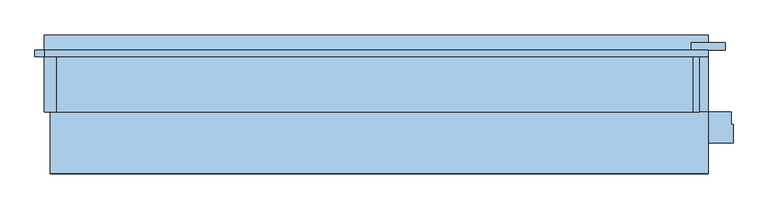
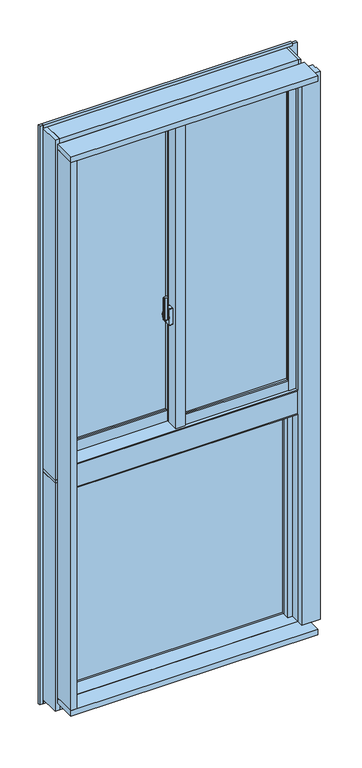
"""IFC4 building model written with IfcOpenShell, lengths in millimetres: window geometry, FNSⅡ100R_非防火_ALC枠_段窓_分解無目 : FIX/框ドア."""

import ifcopenshell
import ifcopenshell.guid

model = None  # the IFC model being written
_history = None  # IfcOwnerHistory: only IFC2X3 demands one
_inside = {}  # id of a spatial element -> (the spatial element, [elements in it])
_under = {}  # id of a project, library or spatial element -> (it, [spatial elements below it])
_declared = {}  # id of a project -> (the project, [libraries it declares])
_typed = {}  # id of a type object -> (the type object, [elements of that type])
_made_of = {}  # id of a material, layer set ... -> (it, [elements and type objects made of it])


def new_model(schema):
    """Start an empty IFC model of exactly this schema.

    Asked for "IFC4X3", IfcOpenShell would pick the latest addendum, in which some entities
    have other attributes; the version numbers below select the first issue.
    IFC2X3 requires an IfcOwnerHistory on every rooted entity: one is made here for all.
    """
    global model, _history
    if schema == "IFC4X3":
        model = ifcopenshell.file(schema_version=(4, 3, 0, 0))
    else:
        model = ifcopenshell.file(schema=schema)
    _inside.clear()
    _under.clear()
    _declared.clear()
    _typed.clear()
    _made_of.clear()
    _history = None
    if model.schema == "IFC2X3":
        org = make("IfcOrganization", Name="unknown")
        user = make(
            "IfcPersonAndOrganization",
            ThePerson=make("IfcPerson", FamilyName="unknown"),
            TheOrganization=org,
        )
        app = make(
            "IfcApplication",
            ApplicationDeveloper=org,
            Version="unknown",
            ApplicationFullName="unknown",
            ApplicationIdentifier="unknown",
        )
        _history = make(
            "IfcOwnerHistory",
            OwningUser=user,
            OwningApplication=app,
            ChangeAction="ADDED",
            CreationDate=0,
        )
    return model


def make(cls, **values):
    """One entity of the class cls with the attributes given. An attribute that is None is left unset."""
    return model.create_entity(
        cls, **{name: value for name, value in values.items() if value is not None}
    )


def rooted(cls, **values):
    """An entity with a GlobalId (a new one), such as an element, a storey or a relation."""
    return make(cls, GlobalId=ifcopenshell.guid.new(), OwnerHistory=_history, **values)


def si_unit(unit_type, name, prefix=None):
    """IfcSIUnit, for example si_unit("LENGTHUNIT", "METRE", prefix="MILLI")."""
    return make("IfcSIUnit", UnitType=unit_type, Prefix=prefix, Name=name)


def assignment(units):
    """IfcUnitAssignment: the units of a project."""
    return None if units is None else make("IfcUnitAssignment", Units=units)


def point(xyz):
    """IfcCartesianPoint."""
    return None if xyz is None else make("IfcCartesianPoint", Coordinates=xyz)


def direction(xyz):
    """IfcDirection."""
    return None if xyz is None else make("IfcDirection", DirectionRatios=xyz)


def frame(location, z_axis=None, x_axis=None):
    """IfcAxis2Placement3D, a coordinate frame: its origin and axes. An axis left out is left unset."""
    return make(
        "IfcAxis2Placement3D",
        Location=point(location),
        Axis=direction(z_axis),
        RefDirection=direction(x_axis),
    )


def frame_2d(location, x_axis=None):
    """IfcAxis2Placement2D, a coordinate frame in the plane: its origin and x axis."""
    return make(
        "IfcAxis2Placement2D", Location=point(location), RefDirection=direction(x_axis)
    )


def origin():
    """The frame at (0, 0, 0) with its axes left unset."""
    return frame((0.0, 0.0, 0.0))


def place(relative_to, where):
    """IfcLocalPlacement: puts the frame where relative to a parent placement (None: the world)."""
    return make(
        "IfcLocalPlacement", PlacementRelTo=relative_to, RelativePlacement=where
    )


def context(
    kind, dimensions, precision=None, world=None, true_north=None, identifier=None
):
    """IfcGeometricRepresentationContext, for example the 3D "Model" context."""
    return make(
        "IfcGeometricRepresentationContext",
        ContextIdentifier=identifier,
        ContextType=kind,
        CoordinateSpaceDimension=dimensions,
        Precision=precision,
        WorldCoordinateSystem=world,
        TrueNorth=true_north,
    )


def project(units=None, contexts=None):
    """IfcProject with its units and contexts."""
    return rooted(
        "IfcProject",
        Name="project",
        RepresentationContexts=contexts,
        UnitsInContext=assignment(units),
    )


def spatial(cls, under=None, at=None, **own):
    """A site, building, storey or space (cls), placed at a placement, below another one or the project."""
    s = rooted(cls, ObjectPlacement=at, **own)
    if under is not None:
        _under.setdefault(under.id(), (under, []))[1].append(s)
    return s


def polyline(points):
    """IfcPolyline through the points."""
    return make("IfcPolyline", Points=[point(p) for p in points])


def circle_curve(where, radius):
    """IfcCircle in the frame where."""
    return make("IfcCircle", Position=where, Radius=radius)


def trimmed(basis, trim1, trim2, sense, master):
    """IfcTrimmedCurve: the piece of a basis curve between two trims."""
    return make(
        "IfcTrimmedCurve",
        BasisCurve=basis,
        Trim1=trim1,
        Trim2=trim2,
        SenseAgreement=sense,
        MasterRepresentation=master,
    )


def segment(curve, same_sense, transition):
    """IfcCompositeCurveSegment."""
    return make(
        "IfcCompositeCurveSegment",
        Transition=transition,
        SameSense=same_sense,
        ParentCurve=curve,
    )


def composite_curve(segments, self_intersect=None):
    """IfcCompositeCurve: segments joined end to end."""
    return make("IfcCompositeCurve", Segments=segments, SelfIntersect=self_intersect)


def outline(outer, holes=None, kind="AREA"):
    """IfcArbitraryClosedProfileDef: a profile drawn as a closed curve; with holes, ...WithVoids."""
    if holes is None:
        return make("IfcArbitraryClosedProfileDef", ProfileType=kind, OuterCurve=outer)
    return make(
        "IfcArbitraryProfileDefWithVoids",
        ProfileType=kind,
        OuterCurve=outer,
        InnerCurves=holes,
    )


def extrude(swept, where, along, depth):
    """IfcExtrudedAreaSolid: the profile swept, set in the frame where, extruded along a direction by depth."""
    return make(
        "IfcExtrudedAreaSolid",
        SweptArea=swept,
        Position=where,
        ExtrudedDirection=direction(along),
        Depth=depth,
    )


def faces_of(points, faces, orient=None, outer=None):
    """IfcFace entities. A face is a list of loops; a loop is a list of indices into points, from 0.

    orient and outer hold one flag for each loop. By default every Orientation is true, the
    first loop of a face is its IfcFaceOuterBound and the others are IfcFaceBound.
    """
    made = []
    for i, loops in enumerate(faces):
        bounds = []
        for j, loop in enumerate(loops):
            is_outer = j == 0 if outer is None else outer[i][j]
            bounds.append(
                make(
                    "IfcFaceOuterBound" if is_outer else "IfcFaceBound",
                    Bound=make("IfcPolyLoop", Polygon=[points[k] for k in loop]),
                    Orientation=True if orient is None else orient[i][j],
                )
            )
        made.append(make("IfcFace", Bounds=bounds))
    return made


def faceted_brep(points, faces, orient=None, outer=None, voids=None):
    """IfcFacetedBrep: a solid bounded by flat faces; with voids (closed shells), ...WithVoids."""
    shared = [point(p) for p in points]
    hull = make("IfcClosedShell", CfsFaces=faces_of(shared, faces, orient, outer))
    if voids is None:
        return make("IfcFacetedBrep", Outer=hull)
    return make(
        "IfcFacetedBrepWithVoids",
        Outer=hull,
        Voids=[
            make(cls, CfsFaces=faces_of(shared, fs, o, b)) for cls, fs, o, b in voids
        ],
    )


def shape(context_of_items, identifier, shape_type, items):
    """IfcShapeRepresentation: the items that make up one representation, for example the "Body"."""
    return make(
        "IfcShapeRepresentation",
        ContextOfItems=context_of_items,
        RepresentationIdentifier=identifier,
        RepresentationType=shape_type,
        Items=items,
    )


def source(mapping_origin, context_of_items, identifier, shape_type, items):
    """IfcRepresentationMap: a shape defined once, which mapped items show again and again."""
    return make(
        "IfcRepresentationMap",
        MappingOrigin=mapping_origin,
        MappedRepresentation=shape(context_of_items, identifier, shape_type, items),
    )


def transform(
    local_origin,
    x_axis=None,
    y_axis=None,
    z_axis=None,
    scale=None,
    scale2=None,
    scale3=None,
    uniform=True,
):
    """IfcCartesianTransformationOperator3D, or its non-uniform kind. x_axis, y_axis, z_axis: its Axis1, 2, 3."""
    if uniform:
        return make(
            "IfcCartesianTransformationOperator3D",
            Axis1=direction(x_axis),
            Axis2=direction(y_axis),
            LocalOrigin=point(local_origin),
            Scale=scale,
            Axis3=direction(z_axis),
        )
    return make(
        "IfcCartesianTransformationOperator3DnonUniform",
        Axis1=direction(x_axis),
        Axis2=direction(y_axis),
        LocalOrigin=point(local_origin),
        Scale=scale,
        Axis3=direction(z_axis),
        Scale2=scale2,
        Scale3=scale3,
    )


def mapped(mapping_source, mapping_target):
    """IfcMappedItem: shows the shape of a source again, moved by a transform."""
    return make(
        "IfcMappedItem", MappingSource=mapping_source, MappingTarget=mapping_target
    )


def made_of(thing, what):
    """Note that an element or type object is made of a material, layer set ...; save() writes the relation."""
    if what is not None:
        _made_of.setdefault(what.id(), (what, []))[1].append(thing)
    return thing


def element(
    cls,
    number,
    at=None,
    inside=None,
    cuts=None,
    type_object=None,
    material=None,
    context=None,
    identifier="Body",
    shape_type=None,
    held_by="IfcProductDefinitionShape",
    body=None,
    shapes=None,
    **own,
):
    """One element of the class cls, such as IfcWall. Its Tag is "e" and its number.

    at: its placement. inside: the storey or other place that contains it. cuts: it is an
    opening in that element (IfcRelVoidsElement). A single representation is given by context,
    identifier, shape_type and body (its items); several are given by shapes. held_by: the class
    of the entity that holds the representations. save() writes the other relations.
    """
    e = rooted(cls, Tag="e%d" % number, ObjectPlacement=at, **own)
    if body is not None:
        shapes = [shape(context, identifier, shape_type, body)]
    if shapes is not None:
        e.Representation = make(held_by, Representations=shapes)
    if inside is not None:
        _inside.setdefault(inside.id(), (inside, []))[1].append(e)
    if cuts is not None:
        rooted(
            "IfcRelVoidsElement", RelatingBuildingElement=cuts, RelatedOpeningElement=e
        )
    if type_object is not None:
        _typed.setdefault(type_object.id(), (type_object, []))[1].append(e)
    return made_of(e, material)


def aggregate(whole, parts):
    """IfcRelAggregates: a whole, such as a stair, and the parts it consists of."""
    return rooted("IfcRelAggregates", RelatingObject=whole, RelatedObjects=parts)


def save(model, path):
    """Write the relations noted so far, then the file.

    IfcRelAggregates (storeys below a building ...), IfcRelContainedInSpatialStructure (elements
    in a storey), IfcRelDefinesByType, IfcRelAssociatesMaterial and IfcRelDeclares: one each for
    every whole, place, type object, material and project.
    """
    for whole, parts in _under.values():
        aggregate(whole, parts)
    for where, things in _inside.values():
        rooted(
            "IfcRelContainedInSpatialStructure",
            RelatedElements=things,
            RelatingStructure=where,
        )
    for kind, things in _typed.values():
        rooted("IfcRelDefinesByType", RelatedObjects=things, RelatingType=kind)
    for what, things in _made_of.values():
        rooted("IfcRelAssociatesMaterial", RelatedObjects=things, RelatingMaterial=what)
    for by, libraries in _declared.values():
        rooted("IfcRelDeclares", RelatingContext=by, RelatedDefinitions=libraries)
    model.write(path)


def plane_surface(at):
    """IfcPlane: the flat surface through the origin of the frame at, square to its z axis."""
    return make("IfcPlane", Position=at)


def cylinder_surface(at, radius):
    """IfcCylindricalSurface: all points at the distance radius from the z axis of the frame at."""
    return make("IfcCylindricalSurface", Position=at, Radius=radius)


def revolved_surface(curve, axis_point, axis_direction):
    """IfcSurfaceOfRevolution: the curve turned about the line through axis_point along axis_direction."""
    return make(
        "IfcSurfaceOfRevolution",
        SweptCurve=make("IfcArbitraryOpenProfileDef", ProfileType="CURVE", Curve=curve),
        AxisPosition=make("IfcAxis1Placement", Location=point(axis_point), Axis=direction(axis_direction)),
    )


def advanced_brep(points, edges, surfaces, faces):
    """IfcAdvancedBrep: a solid bounded by faces that lie on surfaces and meet in shared edges.

    An edge is (start, end): straight between two places in points (the first is 0);
    or (start, end, curve); or (start, end, curve, False) where it runs against its curve.
    A face is (place in surfaces, loops), or (place, loops, False) where it looks against
    its surface's normal. A loop lists edges by number (the first is 1), with a minus sign
    where the edge is run from its end to its start. The first loop is the outer one.
    """
    corners = [point(p) for p in points]
    vertices = [make("IfcVertexPoint", VertexGeometry=c) for c in corners]
    made = []
    for start, end, *more in edges:
        made.append(
            make(
                "IfcEdgeCurve",
                EdgeStart=vertices[start],
                EdgeEnd=vertices[end],
                EdgeGeometry=more[0] if more else make("IfcPolyline", Points=[corners[start], corners[end]]),
                SameSense=more[1] if len(more) > 1 else True,
            )
        )
    hull = []
    for where, loops, *sense in faces:
        bounds = []
        for j, loop in enumerate(loops):
            ring = [make("IfcOrientedEdge", EdgeElement=made[abs(k) - 1], Orientation=k > 0) for k in loop]
            bounds.append(
                make(
                    "IfcFaceOuterBound" if j == 0 else "IfcFaceBound",
                    Bound=make("IfcEdgeLoop", EdgeList=ring),
                    Orientation=True,
                )
            )
        hull.append(make("IfcAdvancedFace", Bounds=bounds, FaceSurface=surfaces[where], SameSense=sense[0] if sense else True))
    return make("IfcAdvancedBrep", Outer=make("IfcClosedShell", CfsFaces=hull))


def window_8ae274f2(model_context):
    return source(origin(), model_context, "Body", "SolidModel", [
        extrude(outline(composite_curve([segment(polyline([(-39.0, 14.6), (-39.0, 6.4)]), True, "CONTINUOUS"), segment(trimmed(circle_curve(frame_2d((-41.0, 6.4)), 2.0), [point((-39.0, 6.4))], [point((-41.3606557, 4.4327869))], False, "CARTESIAN"), True, "CONTINUOUS"), segment(polyline([(-41.3606557, 4.4327869), (-52.3606557, 6.4494536)]), True, "CONTINUOUS"), segment(trimmed(circle_curve(frame_2d((-52.0, 8.4166667)), 2.0), [point((-52.3606557, 6.4494536))], [point((-54.0, 8.4166667))], False, "CARTESIAN"), True, "CONTINUOUS"), segment(polyline([(-54.0, 8.4166667), (-54.0, 12.5833333)]), True, "CONTINUOUS"), segment(trimmed(circle_curve(frame_2d((-52.0, 12.5833333)), 2.0), [point((-54.0, 12.5833333))], [point((-52.3606557, 14.5505464))], False, "CARTESIAN"), True, "CONTINUOUS"), segment(polyline([(-52.3606557, 14.5505464), (-41.3606557, 16.5672131)]), True, "CONTINUOUS"), segment(trimmed(circle_curve(frame_2d((-41.0, 14.6)), 2.0), [point((-41.3606557, 16.5672131))], [point((-39.0, 14.6))], False, "CARTESIAN"), True, "CONTINUOUS")], self_intersect=False)), frame((0.0, 0.0, 2445.0), z_axis=(0.0, 0.0, 1.0), x_axis=(1.0, 0.0, 0.0)), (0.0, 0.0, 1.0), 100.0),
        advanced_brep(
        [(-37.5, 18.8234285, 2476.7333311), (-45.5, 18.8234285, 2476.7333311), (-45.5, 18.4351999, 2475.2844424), (-39.0, 18.4351999, 2475.2844424), (-39.0, 16.6234666, 2468.5229616), (-37.5, 16.6234666, 2468.5229616), (-39.0, 16.6466117, 2434.3190372), (-45.5, 16.6466117, 2434.3190372), (-45.5, 16.907084, 2432.8418256), (-37.5, 16.907084, 2432.8418256), (-37.5, 15.4310745, 2441.2126915), (-39.0, 15.4310745, 2441.2126915)],
        [
            (0, 1),
            (1, 2),
            (2, 3),
            (3, 4),
            (4, 5),
            (5, 0),
            (6, 7),
            (7, 8),
            (8, 9),
            (9, 10),
            (10, 11),
            (11, 6),
            (0, 9, circle_curve(frame((-37.5, 13.0, 2455.0), z_axis=(-1.0, 0.0, 0.0), x_axis=(0.0, 0.25881904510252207, 0.965925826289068)), 22.5)),
            (8, 1, circle_curve(frame((-45.5, 13.0, 2455.0), z_axis=(1.0, 0.0, 0.0), x_axis=(0.0, 0.25881904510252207, 0.965925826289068)), 22.5)),
            (7, 2, circle_curve(frame((-45.5, 13.0, 2455.0), z_axis=(1.0, 0.0, 0.0), x_axis=(0.0, 0.25881904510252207, 0.965925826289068)), 21.0)),
            (6, 3, circle_curve(frame((-39.0, 13.0, 2455.0), z_axis=(1.0, 0.0, 0.0), x_axis=(0.0, 0.25881904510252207, 0.965925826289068)), 21.0)),
            (11, 4, circle_curve(frame((-39.0, 13.0, 2455.0), z_axis=(-1.0, 0.0, 0.0), x_axis=(0.0, -1.0, 0.0)), 14.0)),
            (5, 10, circle_curve(frame((-37.5, 13.0, 2455.0), z_axis=(1.0, 0.0, 0.0), x_axis=(0.0, -1.0, 0.0)), 14.0)),
        ],
        [
            plane_surface(frame((-43.5470497, 13.0, 2455.0), z_axis=(0.0, -0.965925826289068, 0.25881904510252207), x_axis=(0.0, 0.25881904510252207, 0.965925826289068))),
            plane_surface(frame((-43.5470497, 13.0, 2455.0), z_axis=(0.0, -0.9848077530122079, -0.17364817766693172), x_axis=(0.0, 0.17364817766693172, -0.9848077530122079))),
            cylinder_surface(frame((-43.5470497, 13.0, 2455.0), z_axis=(-1.0, 0.0, 0.0), x_axis=(0.0, 0.25881904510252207, 0.965925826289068)), 22.5),
            plane_surface(frame((-45.5, 13.0, 2455.0), z_axis=(-1.0, 0.0, 0.0), x_axis=(0.0, 0.25881904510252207, 0.965925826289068))),
            revolved_surface(polyline([(-45.5, 18.435199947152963, 2475.2844423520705), (-39.0, 18.435199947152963, 2475.2844423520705)]), (-43.5470497, 13.0, 2455.0), (-1.0, 0.0, 0.0)),
            plane_surface(frame((-39.0, 13.0, 2455.0), z_axis=(-1.0, 0.0, 0.0), x_axis=(0.0, 0.25881904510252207, 0.965925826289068))),
            plane_surface(frame((-37.5, 13.0, 2455.0), z_axis=(1.0, 0.0, 0.0), x_axis=(0.0, 0.25881904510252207, 0.965925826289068))),
            cylinder_surface(frame((-37.5, 13.0, 2455.0), z_axis=(-1.0, 0.0, 0.0), x_axis=(0.0, -1.0, 0.0)), 14.0),
        ],
        [
            (0, [[1, 2, 3, 4, 5, 6]]),
            (1, [[7, 8, 9, 10, 11, 12]]),
            (2, [[-1, 13, -9, 14]]),
            (3, [[-2, -14, -8, 15]]),
            (4, [[-3, -15, -7, 16]]),
            (5, [[-16, -12, 17, -4]]),
            (6, [[-13, -6, 18, -10]]),
            (7, [[-17, -11, -18, -5]]),
        ],
    ),
        extrude(outline(composite_curve([segment(trimmed(circle_curve(frame_2d((13.0, 2455.0)), 11.5), [point((24.5, 2455.0))], [point((1.5, 2455.0))], False, "CARTESIAN"), True, "CONTINUOUS"), segment(trimmed(circle_curve(frame_2d((13.0, 2455.0)), 11.5), [point((1.5, 2455.0))], [point((24.5, 2455.0))], False, "CARTESIAN"), True, "CONTINUOUS")], self_intersect=False)), frame((-37.5, 0.0, 0.0), z_axis=(1.0, 0.0, 0.0), x_axis=(0.0, 1.0, 0.0)), (0.0, 0.0, 1.0), 2.5),
        extrude(outline(composite_curve([segment(polyline([(4.0, 2492.5), (22.0, 2492.5)]), True, "CONTINUOUS"), segment(trimmed(circle_curve(frame_2d((22.0, 2490.5)), 2.0), [point((22.0, 2492.5))], [point((24.0, 2490.5))], False, "CARTESIAN"), True, "CONTINUOUS"), segment(polyline([(24.0, 2490.5), (24.0, 2419.5)]), True, "CONTINUOUS"), segment(trimmed(circle_curve(frame_2d((22.0, 2419.5)), 2.0), [point((24.0, 2419.5))], [point((22.0, 2417.5))], False, "CARTESIAN"), True, "CONTINUOUS"), segment(polyline([(22.0, 2417.5), (4.0, 2417.5)]), True, "CONTINUOUS"), segment(trimmed(circle_curve(frame_2d((4.0, 2419.5)), 2.0), [point((4.0, 2417.5))], [point((2.0, 2419.5))], False, "CARTESIAN"), True, "CONTINUOUS"), segment(polyline([(2.0, 2419.5), (2.0, 2490.5)]), True, "CONTINUOUS"), segment(trimmed(circle_curve(frame_2d((4.0, 2490.5)), 2.0), [point((2.0, 2490.5))], [point((4.0, 2492.5))], False, "CARTESIAN"), True, "CONTINUOUS")], self_intersect=False)), frame((-35.0, 0.0, 0.0), z_axis=(1.0, 0.0, 0.0), x_axis=(0.0, 1.0, 0.0)), (0.0, 0.0, 1.0), 15.0),
        extrude(outline(polyline([(20.0, 4.0), (468.0, 4.0), (468.0, -2.0), (20.0, -2.0), (20.0, 4.0)])), frame((0.0, 0.0, 2003.0), z_axis=(0.0, 0.0, 1.0), x_axis=(1.0, 0.0, 0.0)), (0.0, 0.0, 1.0), 1357.0),
        extrude(outline(polyline([(20.0, 22.0), (468.0, 22.0), (468.0, 16.0), (20.0, 16.0), (20.0, 22.0)])), frame((0.0, 0.0, 2003.0), z_axis=(0.0, 0.0, 1.0), x_axis=(1.0, 0.0, 0.0)), (0.0, 0.0, 1.0), 1357.0),
        extrude(outline(polyline([(-468.0, 62.0), (-20.0, 62.0), (-20.0, 56.0), (-468.0, 56.0), (-468.0, 62.0)])), frame((0.0, 0.0, 2003.0), z_axis=(0.0, 0.0, 1.0), x_axis=(1.0, 0.0, 0.0)), (0.0, 0.0, 1.0), 1357.0),
        extrude(outline(polyline([(-468.0, 80.0), (-20.0, 80.0), (-20.0, 74.0), (-468.0, 74.0), (-468.0, 80.0)])), frame((0.0, 0.0, 2003.0), z_axis=(0.0, 0.0, 1.0), x_axis=(1.0, 0.0, 0.0)), (0.0, 0.0, 1.0), 1357.0),
        faceted_brep([(-500.0, 59.0, 3400.0), (-489.5, 59.0, 3400.0), (-489.5, 46.0, 3400.0), (-468.0, 46.0, 3400.0), (-468.0, 88.0, 3400.0), (-500.0, 88.0, 3400.0), (-468.0, 59.0, 1915.0), (-500.0, 59.0, 1915.0), (-500.0, 88.0, 1915.0), (-468.0, 88.0, 1915.0), (-468.0, 59.0, 1955.0), (-489.5, 59.0, 1955.0), (-489.5, 46.0, 1955.0), (-468.0, 46.0, 1955.0)], [[[0, 1, 2, 3, 4, 5]], [[6, 7, 8, 9]], [[1, 0, 7, 6, 10, 11]], [[2, 1, 11, 12]], [[3, 2, 12, 13]], [[4, 3, 13, 10, 6, 9]], [[5, 4, 9, 8]], [[7, 0, 5, 8]], [[11, 10, 13, 12]]]),
        faceted_brep([(-20.0, 45.5, 3400.0), (-1.8, 45.5, 3400.0), (-1.8, 33.1, 3400.0), (20.0, 33.1, 3400.0), (20.0, 88.0, 3400.0), (-20.0, 88.0, 3400.0), (-20.0, 88.0, 1915.0), (20.0, 88.0, 1915.0), (20.0, 59.0, 1915.0), (-20.0, 59.0, 1915.0), (-20.0, 45.5, 1955.0), (-1.8, 45.5, 1955.0), (-1.8, 33.1, 1955.0), (20.0, 33.1, 1955.0), (20.0, 59.0, 1955.0), (-20.0, 59.0, 1955.0)], [[[0, 1, 2, 3, 4, 5]], [[6, 7, 8, 9]], [[1, 0, 10, 11]], [[2, 1, 11, 12]], [[3, 2, 12, 13]], [[4, 3, 13, 14, 8, 7]], [[5, 4, 7, 6]], [[0, 5, 6, 9, 15, 10]], [[14, 15, 9, 8]], [[15, 14, 13, 12, 11, 10]]]),
        extrude(outline(polyline([(-20.0, 33.1), (-15.0, 33.1), (-15.0, -12.0), (15.0, -12.0), (15.0, -8.0), (20.0, -8.0), (20.0, -20.0), (-20.0, -20.0), (-20.0, 33.1)])), frame((0.0, 0.0, 1955.0), z_axis=(0.0, 0.0, 1.0), x_axis=(1.0, 0.0, 0.0)), (0.0, 0.0, 1.0), 1445.0),
        extrude(outline(polyline([(-15.0, 33.1), (20.0, 33.1), (20.0, -8.0), (15.0, -8.0), (15.0, -12.0), (-15.0, -12.0), (-15.0, 33.1)])), frame((0.0, 0.0, 1955.0), z_axis=(0.0, 0.0, 1.0), x_axis=(1.0, 0.0, 0.0)), (0.0, 0.0, 1.0), 1445.0),
        extrude(outline(polyline([(468.0, -20.0), (468.0, -12.0), (489.5, -12.0), (489.5, 1.0), (497.0, 1.0), (497.0, -20.0), (468.0, -20.0)])), frame((0.0, 0.0, 1958.0), z_axis=(0.0, 0.0, 1.0), x_axis=(1.0, 0.0, 0.0)), (0.0, 0.0, 1.0), 1442.0),
        extrude(outline(polyline([(468.0, 30.0), (500.0, 30.0), (500.0, 1.0), (489.5, 1.0), (489.5, -12.0), (468.0, -12.0), (468.0, 30.0)])), frame((0.0, 0.0, 1955.0), z_axis=(0.0, 0.0, 1.0), x_axis=(1.0, 0.0, 0.0)), (0.0, 0.0, 1.0), 1445.0),
        extrude(outline(polyline([(-1.85, 45.5), (-1.85, 38.0), (-20.0, 38.0), (-20.0, 45.5), (-1.85, 45.5)])), frame((0.0, 0.0, 1955.0), z_axis=(0.0, 0.0, 1.0), x_axis=(1.0, 0.0, 0.0)), (0.0, 0.0, 1.0), 1445.0),
        extrude(outline(polyline([(-497.0, 59.0), (-489.5, 59.0), (-489.5, 46.0), (-468.0, 46.0), (-468.0, 38.0), (-497.0, 38.0), (-497.0, 59.0)])), frame((0.0, 0.0, 1955.0), z_axis=(0.0, 0.0, 1.0), x_axis=(1.0, 0.0, 0.0)), (0.0, 0.0, 1.0), 1445.0),
        extrude(outline(polyline([(-18.0, 1958.0), (-18.0, 2003.0), (-10.0, 2003.0), (-10.0, 1980.5), (1.0, 1980.5), (1.0, 1958.0), (-18.0, 1958.0)])), frame((20.0, 0.0, 0.0), z_axis=(1.0, 0.0, 0.0), x_axis=(0.0, 1.0, 0.0)), (0.0, 0.0, 1.0), 448.0),
        extrude(outline(polyline([(30.0, 1955.0), (1.0, 1955.0), (1.0, 1980.5), (-10.0, 1980.5), (-10.0, 2003.0), (30.0, 2003.0), (30.0, 1955.0)])), frame((20.0, 0.0, 0.0), z_axis=(1.0, 0.0, 0.0), x_axis=(0.0, 1.0, 0.0)), (0.0, 0.0, 1.0), 448.0),
        extrude(outline(polyline([(40.0, 2003.0), (48.0, 2003.0), (48.0, 1980.5), (59.0, 1980.5), (59.0, 1955.0), (40.0, 1955.0), (40.0, 2003.0)])), frame((-468.0, 0.0, 0.0), z_axis=(1.0, 0.0, 0.0), x_axis=(0.0, 1.0, 0.0)), (0.0, 0.0, 1.0), 448.0),
        extrude(outline(polyline([(88.0, 1915.0), (59.0, 1915.0), (59.0, 1980.5), (48.0, 1980.5), (48.0, 2003.0), (88.0, 2003.0), (88.0, 1915.0)])), frame((-468.0, 0.0, 0.0), z_axis=(1.0, 0.0, 0.0), x_axis=(0.0, 1.0, 0.0)), (0.0, 0.0, 1.0), 448.0),
        extrude(outline(polyline([(3.0, 3380.5), (-10.0, 3380.5), (-10.0, 3360.0), (-18.0, 3360.0), (-18.0, 3400.0), (3.0, 3400.0), (3.0, 3380.5)])), frame((20.0, 0.0, 0.0), z_axis=(1.0, 0.0, 0.0), x_axis=(0.0, 1.0, 0.0)), (0.0, 0.0, 1.0), 448.0),
        extrude(outline(polyline([(30.0, 3400.0), (30.0, 3360.0), (-10.0, 3360.0), (-10.0, 3380.5), (3.0, 3380.5), (3.0, 3400.0), (30.0, 3400.0)])), frame((20.0, 0.0, 0.0), z_axis=(1.0, 0.0, 0.0), x_axis=(0.0, 1.0, 0.0)), (0.0, 0.0, 1.0), 448.0),
        extrude(outline(polyline([(61.0, 3380.5), (48.0, 3380.5), (48.0, 3360.0), (40.0, 3360.0), (40.0, 3400.0), (61.0, 3400.0), (61.0, 3380.5)])), frame((-468.0, 0.0, 0.0), z_axis=(1.0, 0.0, 0.0), x_axis=(0.0, 1.0, 0.0)), (0.0, 0.0, 1.0), 448.0),
        extrude(outline(polyline([(88.0, 3400.0), (88.0, 3360.0), (48.0, 3360.0), (48.0, 3380.5), (61.0, 3380.5), (61.0, 3400.0), (88.0, 3400.0)])), frame((-468.0, 0.0, 0.0), z_axis=(1.0, 0.0, 0.0), x_axis=(0.0, 1.0, 0.0)), (0.0, 0.0, 1.0), 448.0),
        extrude(outline(polyline([(-15.0, 60.3), (-15.0, 11.9), (-500.0, 11.9), (-500.0, 60.3), (-15.0, 60.3)])), frame((0.0, 0.0, 3400.0), z_axis=(0.0, 0.0, 1.0), x_axis=(1.0, 0.0, 0.0)), (0.0, 0.0, 1.0), 25.0),
        faceted_brep([(515.0, 60.3, 3425.0), (515.0, -10.0, 3425.0), (-515.0, -10.0, 3425.0), (-515.0, 60.3, 3425.0), (-15.0, 60.3, 3425.0), (-15.0, 11.9, 3425.0), (500.0, 11.9, 3425.0), (500.0, 60.3, 3425.0), (515.0, 60.3, 3400.0), (500.0, 60.3, 3400.0), (-515.0, 60.3, 3400.0), (-15.0, 60.3, 3400.0), (515.0, 90.0, 3400.0), (500.0, 11.9, 3400.0), (-15.0, 11.9, 3400.0), (-515.0, 90.0, 3400.0), (515.0, 90.0, 3445.0), (-515.0, 90.0, 3445.0), (515.0, -10.0, 3445.0), (-515.0, -10.0, 3445.0)], [[[0, 1, 2, 3, 4, 5, 6, 7]], [[8, 0, 7, 9]], [[3, 10, 11, 4]], [[12, 8, 9, 13, 14, 11, 10, 15]], [[16, 12, 15, 17]], [[18, 16, 17, 19]], [[1, 18, 19, 2]], [[12, 16, 18, 1, 0, 8]], [[15, 10, 3, 2, 19, 17]], [[6, 13, 9, 7]], [[11, 14, 5, 4]], [[13, 6, 5, 14]]]),
        extrude(outline(polyline([(11.9, 3400.0), (-30.0, 3400.0), (-30.0, 3403.0), (-10.0, 3403.0), (-10.0, 3425.0), (11.9, 3425.0), (11.9, 3400.0)])), frame((-500.0, 0.0, 0.0), z_axis=(1.0, 0.0, 0.0), x_axis=(0.0, 1.0, 0.0)), (0.0, 0.0, 1.0), 1000.0),
        faceted_brep([(500.0, -10.0, 3420.0), (515.0, -10.0, 3420.0), (515.0, -5.5, 3420.0), (500.0, -5.5, 3420.0), (500.0, -30.0, 1955.0), (500.0, -5.5, 1955.0), (515.0, -5.5, 1955.0), (515.0, -10.0, 1955.0), (503.0, -10.0, 1955.0), (503.0, -30.0, 1955.0), (503.0, -30.0, 3403.0), (500.0, -30.0, 3403.0), (503.0, -10.0, 3403.0), (500.0, -10.0, 3403.0)], [[[0, 1, 2, 3]], [[4, 5, 6, 7, 8, 9]], [[4, 9, 10, 11]], [[9, 8, 12, 10]], [[0, 13, 12, 8, 7, 1]], [[2, 1, 7, 6]], [[3, 2, 6, 5]], [[5, 4, 11, 13, 0, 3]], [[12, 13, 11, 10]]]),
        faceted_brep([(-515.0, -10.0, 3420.0), (-500.0, -10.0, 3420.0), (-500.0, 56.0, 3420.0), (-515.0, 56.0, 3420.0), (-515.0, -10.0, 1955.0), (-515.0, 56.0, 1955.0), (-500.0, 56.0, 1955.0), (-500.0, -30.0, 1955.0), (-503.0, -30.0, 1955.0), (-503.0, -10.0, 1955.0), (-503.0, -10.0, 3403.0), (-500.0, -10.0, 3403.0), (-503.0, -30.0, 3403.0), (-500.0, -30.0, 3403.0)], [[[0, 1, 2, 3]], [[4, 5, 6, 7, 8, 9]], [[4, 9, 10, 11, 1, 0]], [[9, 8, 12, 10]], [[8, 7, 13, 12]], [[7, 6, 2, 1, 11, 13]], [[3, 2, 6, 5]], [[4, 0, 3, 5]], [[11, 10, 12, 13]]]),
        faceted_brep([(-535.0, 90.0, 3445.0), (-535.0, -10.0, 3445.0), (-515.0, -10.0, 3445.0), (-515.0, 90.0, 3445.0), (-535.0, 90.0, 1895.0), (-515.0, 90.0, 1895.0), (-515.0, -10.0, 1895.0), (-535.0, -10.0, 1895.0), (-515.0, 90.0, 1904.0), (-515.0, 56.0, 1904.0), (-515.0, 56.0, 3400.0), (-515.0, 90.0, 3400.0), (-500.0, 90.0, 3400.0), (-500.0, 90.0, 1904.0), (-500.0, 56.0, 3400.0), (-500.0, 56.0, 1904.0)], [[[0, 1, 2, 3]], [[4, 5, 6, 7]], [[1, 0, 4, 7]], [[2, 1, 7, 6]], [[3, 2, 6, 5, 8, 9, 10, 11]], [[0, 3, 11, 12, 13, 8, 5, 4]], [[12, 11, 10, 14]], [[13, 15, 9, 8]], [[14, 10, 9, 15]], [[12, 14, 15, 13]]]),
        faceted_brep([(515.0, -10.0, 3445.0), (525.0, -10.0, 3445.0), (525.0, 90.0, 3445.0), (515.0, 90.0, 3445.0), (515.0, -10.0, 1895.0), (515.0, 90.0, 1895.0), (525.0, 90.0, 1895.0), (525.0, -10.0, 1895.0), (515.0, -5.5, 3400.0), (500.0, -5.5, 3400.0), (500.0, -5.5, 1904.0), (515.0, -5.5, 1904.0), (500.0, 90.0, 3400.0), (500.0, 90.0, 1904.0), (515.0, 90.0, 3400.0), (515.0, 90.0, 1904.0)], [[[0, 1, 2, 3]], [[4, 5, 6, 7]], [[8, 9, 10, 11]], [[9, 12, 13, 10]], [[9, 8, 14, 12]], [[10, 13, 15, 11]], [[1, 0, 4, 7]], [[2, 1, 7, 6]], [[3, 2, 6, 5, 15, 13, 12, 14]], [[0, 3, 14, 8, 11, 15, 5, 4]]]),
        faceted_brep([(515.0, -10.0, 1939.0), (515.0, 56.0, 1939.0), (-515.0, 56.0, 1939.0), (-515.0, -10.0, 1939.0), (500.0, 17.25, 1939.0), (500.0, -1.2, 1939.0), (-15.0, -1.2, 1939.0), (-15.0, 17.25, 1939.0), (515.0, 56.0, 1904.0), (-515.0, 56.0, 1904.0), (515.0, 90.0, 1904.0), (-515.0, 90.0, 1904.0), (515.0, 90.0, 1895.0), (515.0, -10.0, 1895.0), (-515.0, -10.0, 1895.0), (-515.0, 90.0, 1895.0), (500.0, -1.2, 1955.0), (500.0, 17.25, 1955.0), (-15.0, -1.2, 1955.0), (-15.0, 17.25, 1955.0)], [[[0, 1, 2, 3], [4, 5, 6, 7]], [[1, 8, 9, 2]], [[8, 10, 11, 9]], [[12, 13, 14, 15]], [[12, 10, 8, 1, 0, 13]], [[15, 14, 3, 2, 9, 11]], [[13, 0, 3, 14]], [[10, 12, 15, 11]], [[16, 5, 4, 17]], [[18, 19, 7, 6]], [[5, 16, 18, 6]], [[17, 4, 7, 19]], [[16, 17, 19, 18]]]),
        faceted_brep([(503.0, -30.0, 1955.0), (503.0, -30.0, 1952.0), (503.0, -10.0, 1952.0), (503.0, -10.0, 1939.0), (503.0, -5.5, 1939.0), (503.0, -5.5, 1955.0), (-503.0, -10.0, 1939.0), (-503.0, -10.0, 1952.0), (-503.0, -30.0, 1952.0), (-503.0, -30.0, 1955.0), (-503.0, -1.2, 1955.0), (-503.0, -1.2, 1939.0), (500.0, -5.5, 1955.0), (500.0, -1.2, 1955.0), (-15.0, -1.2, 1955.0), (-15.0, 56.0, 1955.0), (-500.0, 56.0, 1955.0), (-500.0, -1.2, 1955.0), (-500.0, -1.2, 1939.0), (500.0, -1.2, 1939.0), (-15.0, -1.2, 1939.0), (-500.0, 56.0, 1939.0), (-15.0, 56.0, 1939.0), (500.0, -5.5, 1939.0)], [[[0, 1, 2, 3, 4, 5]], [[6, 7, 8, 9, 10, 11]], [[3, 2, 7, 6]], [[2, 1, 8, 7]], [[1, 0, 9, 8]], [[10, 9, 0, 5, 12, 13, 14, 15, 16, 17]], [[11, 10, 17, 18]], [[13, 19, 20, 14]], [[6, 11, 18, 21, 22, 20, 19, 23, 4, 3]], [[12, 23, 19, 13]], [[23, 12, 5, 4]], [[15, 14, 20, 22]], [[16, 21, 18, 17]], [[15, 22, 21, 16]]]),
        extrude(outline(polyline([(-480.0, 55.6), (480.0, 55.6), (480.0, 49.6), (-480.0, 49.6), (-480.0, 55.6)])), frame((0.0, 0.0, 900.0), z_axis=(0.0, 0.0, 1.0), x_axis=(1.0, 0.0, 0.0)), (0.0, 0.0, 1.0), 925.0),
        extrude(outline(polyline([(-480.0, 73.6), (480.0, 73.6), (480.0, 67.6), (-480.0, 67.6), (-480.0, 73.6)])), frame((0.0, 0.0, 900.0), z_axis=(0.0, 0.0, 1.0), x_axis=(1.0, 0.0, 0.0)), (0.0, 0.0, 1.0), 925.0),
        faceted_brep([(-480.0, 40.0, 1825.0), (-515.0, 40.0, 1825.0), (-515.0, 40.0, 900.0), (-480.0, 40.0, 900.0), (-480.0, 90.0, 1825.0), (-480.0, 90.0, 900.0), (-515.0, 90.0, 1880.0), (-515.0, -10.0, 1880.0), (-515.0, -10.0, 840.0), (-515.0, 90.0, 840.0), (-515.0, 90.0, 900.0), (-515.0, 90.0, 1825.0), (-535.0, 90.0, 840.0), (-535.0, -10.0, 840.0), (-535.0, -10.0, 1880.0), (-535.0, 90.0, 1880.0)], [[[0, 1, 2, 3]], [[4, 0, 3, 5]], [[6, 7, 8, 9, 10, 2, 1, 11]], [[5, 3, 2, 10]], [[12, 9, 8, 13]], [[7, 14, 13, 8]], [[15, 6, 11, 4, 5, 10, 9, 12]], [[15, 14, 7, 6]], [[14, 15, 12, 13]], [[4, 11, 1, 0]]]),
        faceted_brep([(480.0, 40.0, 1825.0), (480.0, 90.0, 1825.0), (480.0, 90.0, 900.0), (480.0, 40.0, 900.0), (515.0, 40.0, 1825.0), (515.0, 40.0, 900.0), (525.0, -10.0, 1880.0), (515.0, -10.0, 1880.0), (515.0, -10.0, 840.0), (525.0, -10.0, 840.0), (525.0, 90.0, 1880.0), (525.0, 90.0, 840.0), (515.0, 90.0, 900.0), (515.0, 90.0, 840.0), (515.0, 90.0, 1880.0), (515.0, 90.0, 1825.0)], [[[0, 1, 2, 3]], [[4, 0, 3, 5]], [[6, 7, 8, 9]], [[10, 6, 9, 11]], [[5, 3, 2, 12]], [[11, 9, 8, 13]], [[14, 10, 11, 13, 12, 2, 1, 15]], [[7, 14, 15, 4, 5, 12, 13, 8]], [[10, 14, 7, 6]], [[15, 1, 0, 4]]]),
        extrude(outline(polyline([(500.0, -30.0), (500.0, 8.5), (480.0, 8.5), (480.0, 40.0), (515.0, 40.0), (515.0, -10.0), (503.0, -10.0), (503.0, -30.0), (500.0, -30.0)])), frame((0.0, 0.0, 900.0), z_axis=(0.0, 0.0, 1.0), x_axis=(1.0, 0.0, 0.0)), (0.0, 0.0, 1.0), 945.0),
        extrude(outline(polyline([(-515.0, -10.0), (-515.0, 40.0), (-480.0, 40.0), (-480.0, 8.5), (-500.0, 8.5), (-500.0, -30.0), (-503.0, -30.0), (-503.0, -10.0), (-515.0, -10.0)])), frame((0.0, 0.0, 900.0), z_axis=(0.0, 0.0, 1.0), x_axis=(1.0, 0.0, 0.0)), (0.0, 0.0, 1.0), 945.0),
        extrude(outline(polyline([(-10.0, 884.0), (-10.0, 897.0), (-30.0, 897.0), (-30.0, 900.0), (40.0, 900.0), (40.0, 884.0), (-10.0, 884.0)])), frame((-503.0, 0.0, 0.0), z_axis=(1.0, 0.0, 0.0), x_axis=(0.0, 1.0, 0.0)), (0.0, 0.0, 1.0), 1006.0),
        extrude(outline(polyline([(90.0, 840.0), (-10.0, 840.0), (-10.0, 884.0), (40.0, 884.0), (40.0, 900.0), (90.0, 900.0), (90.0, 870.0), (71.0, 870.0), (71.0, 850.0), (90.0, 850.0), (90.0, 840.0)])), frame((-515.0, 0.0, 0.0), z_axis=(1.0, 0.0, 0.0), x_axis=(0.0, 1.0, 0.0)), (0.0, 0.0, 1.0), 1030.0),
        extrude(outline(polyline([(40.0, 1822.0), (6.0, 1822.0), (6.0, 1845.0), (-30.0, 1845.0), (-30.0, 1848.0), (-10.0, 1848.0), (-10.0, 1860.0), (40.0, 1860.0), (40.0, 1822.0)])), frame((-503.0, 0.0, 0.0), z_axis=(1.0, 0.0, 0.0), x_axis=(0.0, 1.0, 0.0)), (0.0, 0.0, 1.0), 1006.0),
        extrude(outline(polyline([(90.0, 1825.0), (40.0, 1825.0), (40.0, 1860.0), (-10.0, 1860.0), (-10.0, 1880.0), (90.0, 1880.0), (90.0, 1825.0)])), frame((-515.0, 0.0, 0.0), z_axis=(1.0, 0.0, 0.0), x_axis=(0.0, 1.0, 0.0)), (0.0, 0.0, 1.0), 1030.0),
        extrude(outline(polyline([(-110.0, 900.0), (-30.0, 900.0), (-30.0, 897.0), (-10.0, 897.0), (-10.0, 875.0), (-110.0, 875.0), (-110.0, 900.0)])), frame((-525.0, 0.0, 0.0), z_axis=(1.0, 0.0, 0.0), x_axis=(0.0, 1.0, 0.0)), (0.0, 0.0, 1.0), 1065.0),
        extrude(outline(polyline([(-535.0, 80.0), (-535.0, 90.0), (540.0, 90.0), (540.0, 80.0), (-535.0, 80.0)])), frame((0.0, 0.0, 830.0), z_axis=(0.0, 0.0, 1.0), x_axis=(1.0, 0.0, 0.0)), (0.0, 0.0, 1.0), 10.0),
        extrude(outline(polyline([(100.0, 807.0), (100.0, 820.0), (80.0, 820.0), (80.0, 830.0), (90.0, 830.0), (115.0, 825.0), (115.0, 807.0), (100.0, 807.0)])), frame((-535.0, 0.0, 0.0), z_axis=(1.0, 0.0, 0.0), x_axis=(0.0, 1.0, 0.0)), (0.0, 0.0, 1.0), 1075.0),
        extrude(outline(polyline([(-503.0, -10.0), (-503.0, -30.0), (-500.0, -30.0), (-500.0, -110.0), (-525.0, -110.0), (-525.0, -10.0), (-503.0, -10.0)])), frame((0.0, 0.0, 900.0), z_axis=(0.0, 0.0, 1.0), x_axis=(1.0, 0.0, 0.0)), (0.0, 0.0, 1.0), 2500.0),
        extrude(outline(polyline([(-550.0, 90.0), (-535.0, 90.0), (-535.0, 80.0), (-550.0, 80.0), (-550.0, 90.0)])), frame((0.0, 0.0, 820.0), z_axis=(0.0, 0.0, 1.0), x_axis=(1.0, 0.0, 0.0)), (0.0, 0.0, 1.0), 2640.0),
        extrude(outline(polyline([(503.0, -30.0), (503.0, -10.0), (577.0, -10.0), (577.0, -30.0), (580.0, -30.0), (580.0, -60.0), (500.0, -60.0), (500.0, -30.0), (503.0, -30.0)])), frame((0.0, 0.0, 900.0), z_axis=(0.0, 0.0, 1.0), x_axis=(1.0, 0.0, 0.0)), (0.0, 0.0, 1.0), 2500.0),
        extrude(outline(polyline([(567.5, 90.0), (512.5, 90.0), (512.5, 102.0), (567.5, 102.0), (567.5, 90.0)])), frame((0.0, 0.0, 840.0), z_axis=(0.0, 0.0, 1.0), x_axis=(1.0, 0.0, 0.0)), (0.0, 0.0, 1.0), 2605.0),
        extrude(outline(polyline([(-110.0, 3425.0), (-10.0, 3425.0), (-10.0, 3403.0), (-30.0, 3403.0), (-30.0, 3400.0), (-110.0, 3400.0), (-110.0, 3425.0)])), frame((-525.0, 0.0, 0.0), z_axis=(1.0, 0.0, 0.0), x_axis=(0.0, 1.0, 0.0)), (0.0, 0.0, 1.0), 1065.0),
        extrude(outline(polyline([(-500.0, -30.0), (-500.0, -10.0), (500.0, -10.0), (500.0, -30.0), (-500.0, -30.0)])), frame((0.0, 0.0, 1848.0), z_axis=(0.0, 0.0, 1.0), x_axis=(1.0, 0.0, 0.0)), (0.0, 0.0, 1.0), 104.0),
        extrude(outline(polyline([(-535.0, -10.0), (-535.0, 90.0), (540.0, 90.0), (540.0, -10.0), (-535.0, -10.0)])), frame((0.0, 0.0, 1880.0), z_axis=(0.0, 0.0, 1.0), x_axis=(1.0, 0.0, 0.0)), (0.0, 0.0, 1.0), 15.0),
        extrude(outline(polyline([(-535.0, 80.0), (-535.0, 90.0), (540.0, 90.0), (540.0, 80.0), (-535.0, 80.0)])), frame((0.0, 0.0, 3445.0), z_axis=(0.0, 0.0, 1.0), x_axis=(1.0, 0.0, 0.0)), (0.0, 0.0, 1.0), 15.0),
    ])


if __name__ == "__main__":
    model = new_model("IFC4")
    model_context = context("Model", 3, world=origin())
    ifc_project = project(units=[si_unit("LENGTHUNIT", "METRE", prefix="MILLI")], contexts=[model_context])
    site = spatial("IfcSite", under=ifc_project)
    building = spatial("IfcBuilding", under=site)
    placement = place(None, origin())
    window_shape = window_8ae274f2(model_context)
    element("IfcWindow", 1, ObjectType="FNSⅡ100R_非防火_ALC枠_段窓_分解無目 : FIX/框ドア", at=placement, inside=building, context=model_context, shape_type="MappedRepresentation", body=[
        mapped(window_shape, transform((0.0, 0.0, 0.0), x_axis=(1.0, 0.0, 0.0), y_axis=(0.0, 1.0, 0.0), z_axis=(0.0, 0.0, 1.0))),
    ])
    save(model, "model.ifc")
